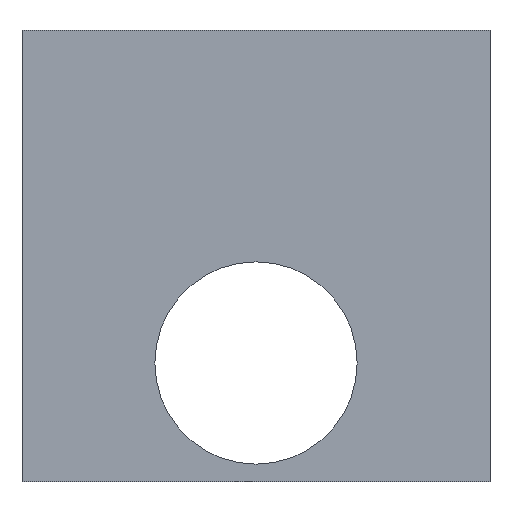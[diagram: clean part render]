
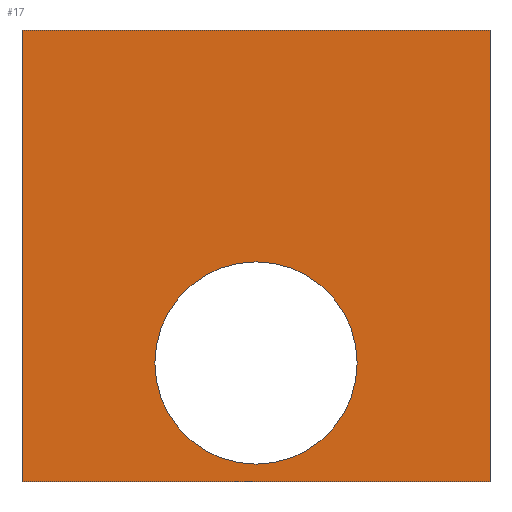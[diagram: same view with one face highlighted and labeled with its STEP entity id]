
A CAD part, left-side view. The second image highlights one B-rep face of the part: STEP entity #17.
In plain terms, the highlighted planar face has unit normal (-1, 0, 0).
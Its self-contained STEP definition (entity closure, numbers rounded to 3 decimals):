
#17 = ADVANCED_FACE('',(#18,#137),#32,.F.);
#18 = FACE_BOUND('',#19,.F.);
#19 = EDGE_LOOP('',(#20,#55,#83,#111));
#20 = ORIENTED_EDGE('',*,*,#21,.F.);
#21 = EDGE_CURVE('',#22,#24,#26,.T.);
#22 = VERTEX_POINT('',#23);
#23 = CARTESIAN_POINT('',(940.,-420.,1064.5));
#24 = VERTEX_POINT('',#25);
#25 = CARTESIAN_POINT('',(940.,-420.,1199.5));
#26 = SURFACE_CURVE('',#27,(#31,#43),.PCURVE_S1.);
#27 = LINE('',#28,#29);
#28 = CARTESIAN_POINT('',(940.,-420.,1064.5));
#29 = VECTOR('',#30,1.);
#30 = DIRECTION('',(0.,0.,1.));
#31 = PCURVE('',#32,#37);
#32 = PLANE('',#33);
#33 = AXIS2_PLACEMENT_3D('',#34,#35,#36);
#34 = CARTESIAN_POINT('',(940.,-420.,1064.5));
#35 = DIRECTION('',(1.,0.,-0.));
#36 = DIRECTION('',(0.,0.,1.));
#37 = DEFINITIONAL_REPRESENTATION('',(#38),#42);
#38 = LINE('',#39,#40);
#39 = CARTESIAN_POINT('',(0.,0.));
#40 = VECTOR('',#41,1.);
#41 = DIRECTION('',(1.,0.));
#42 = ( GEOMETRIC_REPRESENTATION_CONTEXT(2) 
PARAMETRIC_REPRESENTATION_CONTEXT() REPRESENTATION_CONTEXT('2D SPACE',''
  ) );
#43 = PCURVE('',#44,#49);
#44 = PLANE('',#45);
#45 = AXIS2_PLACEMENT_3D('',#46,#47,#48);
#46 = CARTESIAN_POINT('',(940.,-420.,1064.5));
#47 = DIRECTION('',(-0.,1.,0.));
#48 = DIRECTION('',(0.,0.,1.));
#49 = DEFINITIONAL_REPRESENTATION('',(#50),#54);
#50 = LINE('',#51,#52);
#51 = CARTESIAN_POINT('',(0.,0.));
#52 = VECTOR('',#53,1.);
#53 = DIRECTION('',(1.,0.));
#54 = ( GEOMETRIC_REPRESENTATION_CONTEXT(2) 
PARAMETRIC_REPRESENTATION_CONTEXT() REPRESENTATION_CONTEXT('2D SPACE',''
  ) );
#55 = ORIENTED_EDGE('',*,*,#56,.T.);
#56 = EDGE_CURVE('',#22,#57,#59,.T.);
#57 = VERTEX_POINT('',#58);
#58 = CARTESIAN_POINT('',(940.,-280.,1064.5));
#59 = SURFACE_CURVE('',#60,(#64,#71),.PCURVE_S1.);
#60 = LINE('',#61,#62);
#61 = CARTESIAN_POINT('',(940.,-420.,1064.5));
#62 = VECTOR('',#63,1.);
#63 = DIRECTION('',(-0.,1.,0.));
#64 = PCURVE('',#32,#65);
#65 = DEFINITIONAL_REPRESENTATION('',(#66),#70);
#66 = LINE('',#67,#68);
#67 = CARTESIAN_POINT('',(0.,0.));
#68 = VECTOR('',#69,1.);
#69 = DIRECTION('',(0.,-1.));
#70 = ( GEOMETRIC_REPRESENTATION_CONTEXT(2) 
PARAMETRIC_REPRESENTATION_CONTEXT() REPRESENTATION_CONTEXT('2D SPACE',''
  ) );
#71 = PCURVE('',#72,#77);
#72 = PLANE('',#73);
#73 = AXIS2_PLACEMENT_3D('',#74,#75,#76);
#74 = CARTESIAN_POINT('',(940.,-420.,1064.5));
#75 = DIRECTION('',(0.,0.,1.));
#76 = DIRECTION('',(1.,0.,-0.));
#77 = DEFINITIONAL_REPRESENTATION('',(#78),#82);
#78 = LINE('',#79,#80);
#79 = CARTESIAN_POINT('',(0.,0.));
#80 = VECTOR('',#81,1.);
#81 = DIRECTION('',(0.,1.));
#82 = ( GEOMETRIC_REPRESENTATION_CONTEXT(2) 
PARAMETRIC_REPRESENTATION_CONTEXT() REPRESENTATION_CONTEXT('2D SPACE',''
  ) );
#83 = ORIENTED_EDGE('',*,*,#84,.T.);
#84 = EDGE_CURVE('',#57,#85,#87,.T.);
#85 = VERTEX_POINT('',#86);
#86 = CARTESIAN_POINT('',(940.,-280.,1199.5));
#87 = SURFACE_CURVE('',#88,(#92,#99),.PCURVE_S1.);
#88 = LINE('',#89,#90);
#89 = CARTESIAN_POINT('',(940.,-280.,1064.5));
#90 = VECTOR('',#91,1.);
#91 = DIRECTION('',(0.,0.,1.));
#92 = PCURVE('',#32,#93);
#93 = DEFINITIONAL_REPRESENTATION('',(#94),#98);
#94 = LINE('',#95,#96);
#95 = CARTESIAN_POINT('',(0.,-140.));
#96 = VECTOR('',#97,1.);
#97 = DIRECTION('',(1.,0.));
#98 = ( GEOMETRIC_REPRESENTATION_CONTEXT(2) 
PARAMETRIC_REPRESENTATION_CONTEXT() REPRESENTATION_CONTEXT('2D SPACE',''
  ) );
#99 = PCURVE('',#100,#105);
#100 = PLANE('',#101);
#101 = AXIS2_PLACEMENT_3D('',#102,#103,#104);
#102 = CARTESIAN_POINT('',(940.,-280.,1064.5));
#103 = DIRECTION('',(-0.,1.,0.));
#104 = DIRECTION('',(0.,0.,1.));
#105 = DEFINITIONAL_REPRESENTATION('',(#106),#110);
#106 = LINE('',#107,#108);
#107 = CARTESIAN_POINT('',(0.,0.));
#108 = VECTOR('',#109,1.);
#109 = DIRECTION('',(1.,0.));
#110 = ( GEOMETRIC_REPRESENTATION_CONTEXT(2) 
PARAMETRIC_REPRESENTATION_CONTEXT() REPRESENTATION_CONTEXT('2D SPACE',''
  ) );
#111 = ORIENTED_EDGE('',*,*,#112,.F.);
#112 = EDGE_CURVE('',#24,#85,#113,.T.);
#113 = SURFACE_CURVE('',#114,(#118,#125),.PCURVE_S1.);
#114 = LINE('',#115,#116);
#115 = CARTESIAN_POINT('',(940.,-420.,1199.5));
#116 = VECTOR('',#117,1.);
#117 = DIRECTION('',(-0.,1.,0.));
#118 = PCURVE('',#32,#119);
#119 = DEFINITIONAL_REPRESENTATION('',(#120),#124);
#120 = LINE('',#121,#122);
#121 = CARTESIAN_POINT('',(135.,0.));
#122 = VECTOR('',#123,1.);
#123 = DIRECTION('',(0.,-1.));
#124 = ( GEOMETRIC_REPRESENTATION_CONTEXT(2) 
PARAMETRIC_REPRESENTATION_CONTEXT() REPRESENTATION_CONTEXT('2D SPACE',''
  ) );
#125 = PCURVE('',#126,#131);
#126 = PLANE('',#127);
#127 = AXIS2_PLACEMENT_3D('',#128,#129,#130);
#128 = CARTESIAN_POINT('',(940.,-420.,1199.5));
#129 = DIRECTION('',(0.,0.,1.));
#130 = DIRECTION('',(1.,0.,-0.));
#131 = DEFINITIONAL_REPRESENTATION('',(#132),#136);
#132 = LINE('',#133,#134);
#133 = CARTESIAN_POINT('',(0.,0.));
#134 = VECTOR('',#135,1.);
#135 = DIRECTION('',(0.,1.));
#136 = ( GEOMETRIC_REPRESENTATION_CONTEXT(2) 
PARAMETRIC_REPRESENTATION_CONTEXT() REPRESENTATION_CONTEXT('2D SPACE',''
  ) );
#137 = FACE_BOUND('',#138,.F.);
#138 = EDGE_LOOP('',(#139));
#139 = ORIENTED_EDGE('',*,*,#140,.F.);
#140 = EDGE_CURVE('',#141,#141,#143,.T.);
#141 = VERTEX_POINT('',#142);
#142 = CARTESIAN_POINT('',(940.,-350.,1130.25));
#143 = SURFACE_CURVE('',#144,(#149,#156),.PCURVE_S1.);
#144 = CIRCLE('',#145,30.25);
#145 = AXIS2_PLACEMENT_3D('',#146,#147,#148);
#146 = CARTESIAN_POINT('',(940.,-350.,1100.));
#147 = DIRECTION('',(1.,0.,0.));
#148 = DIRECTION('',(-0.,0.,1.));
#149 = PCURVE('',#32,#150);
#150 = DEFINITIONAL_REPRESENTATION('',(#151),#155);
#151 = CIRCLE('',#152,30.25);
#152 = AXIS2_PLACEMENT_2D('',#153,#154);
#153 = CARTESIAN_POINT('',(35.5,-70.));
#154 = DIRECTION('',(1.,0.));
#155 = ( GEOMETRIC_REPRESENTATION_CONTEXT(2) 
PARAMETRIC_REPRESENTATION_CONTEXT() REPRESENTATION_CONTEXT('2D SPACE',''
  ) );
#156 = PCURVE('',#157,#162);
#157 = CYLINDRICAL_SURFACE('',#158,30.25);
#158 = AXIS2_PLACEMENT_3D('',#159,#160,#161);
#159 = CARTESIAN_POINT('',(938.,-350.,1100.));
#160 = DIRECTION('',(1.,0.,0.));
#161 = DIRECTION('',(-0.,0.,1.));
#162 = DEFINITIONAL_REPRESENTATION('',(#163),#167);
#163 = LINE('',#164,#165);
#164 = CARTESIAN_POINT('',(0.,2.));
#165 = VECTOR('',#166,1.);
#166 = DIRECTION('',(1.,0.));
#167 = ( GEOMETRIC_REPRESENTATION_CONTEXT(2) 
PARAMETRIC_REPRESENTATION_CONTEXT() REPRESENTATION_CONTEXT('2D SPACE',''
  ) );
